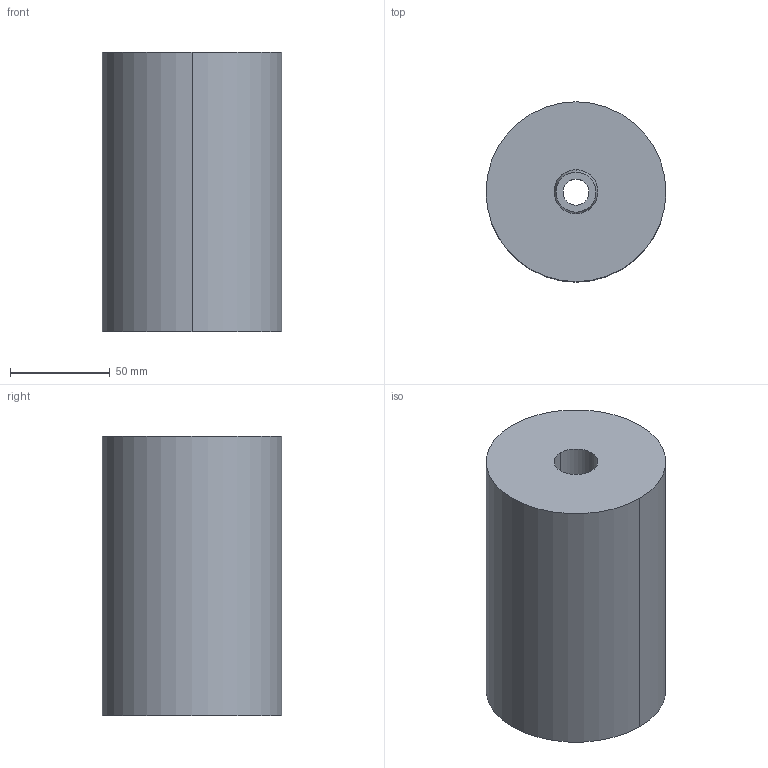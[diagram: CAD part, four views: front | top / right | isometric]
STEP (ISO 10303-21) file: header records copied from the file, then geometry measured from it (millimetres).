
FILE_DESCRIPTION(/* description */ (''),/* implementation_level */ '2;1');
FILE_NAME(/* name */ '3d_esu90-140_07037_r00.stp',/* time_stamp */ '2011-01-10T14:15:39+09:00',/* author */ ('MISUMI'),/* organization */ (''),/* preprocessor_version */ 'ST-DEVELOPER v11',/* originating_system */ 'UGS - NX 5.0',/* authorisation */ '');
FILE_SCHEMA (('CONFIG_CONTROL_DESIGN'));
Length unit declared in the file: millimetre
Products named in the file (1): 3d_esu90-140_07037_r00
Bounding box: 90 x 90 x 140 mm (x, y, z)
Volume: 846919.7 mm3; surface area: 65191.2 mm2
Topology: 2 solids, 2 shells, 18 faces, 36 edges, 22 vertices
Faces by surface type: cylinder 10, plane 4, cone 4
Entity records: 566 total; most frequent: DIRECTION 96, CARTESIAN_POINT 77, ORIENTED_EDGE 72, AXIS2_PLACEMENT_3D 41, EDGE_CURVE 36, EDGE_LOOP 22, CIRCLE 22, VERTEX_POINT 22
